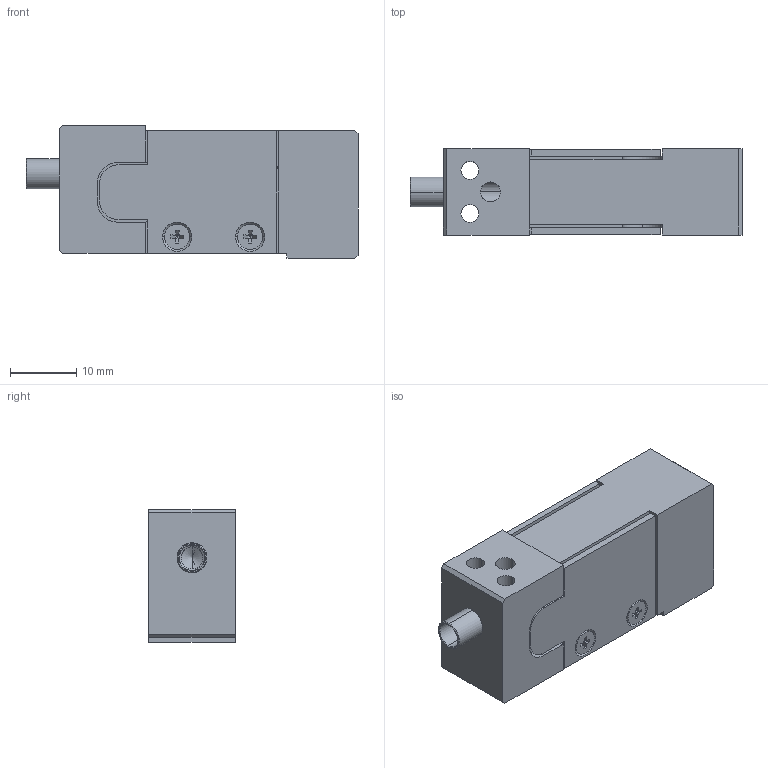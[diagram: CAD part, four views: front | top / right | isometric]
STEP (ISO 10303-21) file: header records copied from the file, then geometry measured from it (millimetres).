
FILE_DESCRIPTION (( 'STEP AP203' ), '1' );
FILE_NAME ('PPS-D00100 Kundenmodell.STEP', '2018-04-11T04:28:07', ( '' ), ( '' ), 'SwSTEP 2.0', 'SolidWorks 2017', '' );
FILE_SCHEMA (( 'CONFIG_CONTROL_DESIGN' ));
Length unit declared in the file: millimetre
Products named in the file (16): PPO000016_Kabelhülse; PPO000015_Vorspannschraube; PPO000014_Abdeckung 100 痠; countersunk flat head cross recess screw_din; countersunk flat head cross recess screw_din_ISO 7046-1 - M2 x 5 - Z --- 5N; PPS-D00100 Kundenmodell; PPO000013_Abdeckung 100 痠 - 1; PPO000010_Grundkörper 100 µm
Assembly tree (9 placements, depth 2):
  PPO000015_Vorspannschraube
  PPO000016_Kabelhülse
  countersunk flat head cross recess screw_din
  countersunk flat head cross recess screw_din
  countersunk flat head cross recess screw_din
Bounding box: 50.03 x 13 x 20 mm (x, y, z)
Volume: 10160.2 mm3; surface area: 6803.9 mm2
Topology: 9 solids, 9 shells, 331 faces, 796 edges, 477 vertices
Faces by surface type: plane 158, cone 86, cylinder 79, torus 8
Entity records: 7647 total; most frequent: CARTESIAN_POINT 1137, DIRECTION 1111, ORIENTED_EDGE 1004, EDGE_CURVE 502, AXIS2_PLACEMENT_3D 403, VERTEX_POINT 315, VECTOR 305, LINE 305
